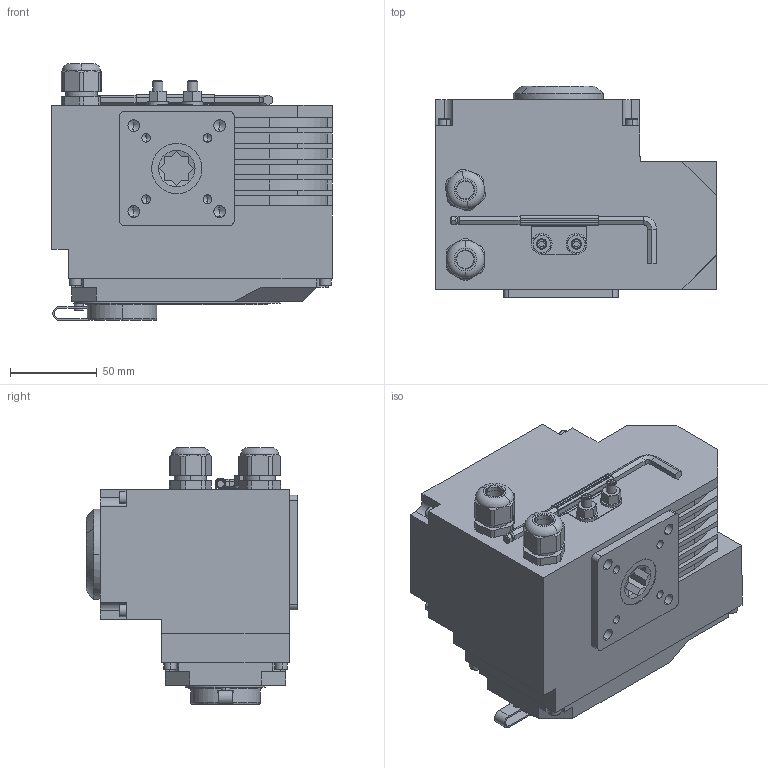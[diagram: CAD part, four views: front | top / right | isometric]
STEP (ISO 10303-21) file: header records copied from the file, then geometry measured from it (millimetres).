
FILE_DESCRIPTION (( 'STEP AP203' ), '1' );
FILE_NAME ('AOX_005-008_3D.STEP', '2020-04-16T12:24:05', ( '' ), ( '' ), 'SwSTEP 2.0', 'SolidWorks 2017', '' );
FILE_SCHEMA (( 'CONFIG_CONTROL_DESIGN' ));
Length unit declared in the file: millimetre
Products named in the file (1): AOX_005-008_3D
Bounding box: 161.5 x 122 x 148 mm (x, y, z)
Volume: 1630987.3 mm3; surface area: 111711.3 mm2
Topology: 1 solids, 4 shells, 636 faces, 1623 edges, 1004 vertices
Faces by surface type: plane 372, cylinder 141, cone 92, torus 31
Entity records: 19303 total; most frequent: CARTESIAN_POINT 3906, DIRECTION 3202, ORIENTED_EDGE 3174, EDGE_CURVE 1587, AXIS2_PLACEMENT_3D 1096, VECTOR 1010, LINE 1010, VERTEX_POINT 1004
